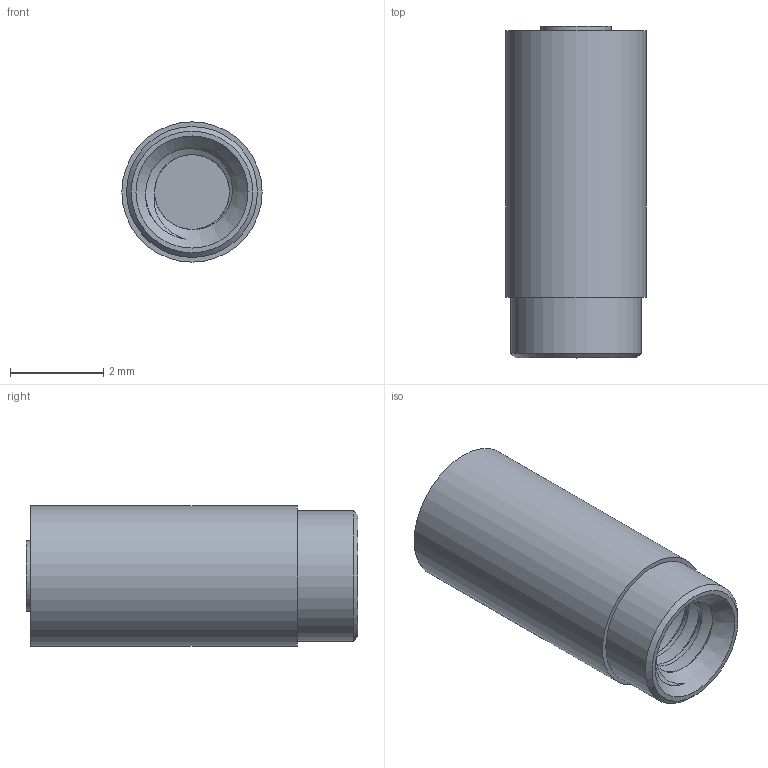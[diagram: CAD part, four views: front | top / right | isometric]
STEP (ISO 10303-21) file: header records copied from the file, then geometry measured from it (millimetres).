
FILE_DESCRIPTION (( 'STEP AP214' ), '1' );
FILE_NAME ('DKH-3.STEP', '2018-10-09T18:01:39', ( '' ), ( '' ), 'SwSTEP 2.0', 'SolidWorks 2017', '' );
FILE_SCHEMA (( 'AUTOMOTIVE_DESIGN' ));
Length unit declared in the file: millimetre
Products named in the file (1): DKH-3
Bounding box: 3 x 7.1 x 3 mm (x, y, z)
Volume: 41.9 mm3; surface area: 99.6 mm2
Topology: 1 solids, 1 shells, 86 faces, 222 edges, 148 vertices
Faces by surface type: plane 44, cylinder 37, bspline 3, cone 2
Full cylindrical faces by diameter (mm): 1.5 x1, 1.6 x4, 2.8 x1, 3 x1
Entity records: 3706 total; most frequent: CARTESIAN_POINT 1799, ORIENTED_EDGE 402, DIRECTION 288, EDGE_CURVE 201, VERTEX_POINT 137, VECTOR 108, LINE 108, EDGE_LOOP 98
